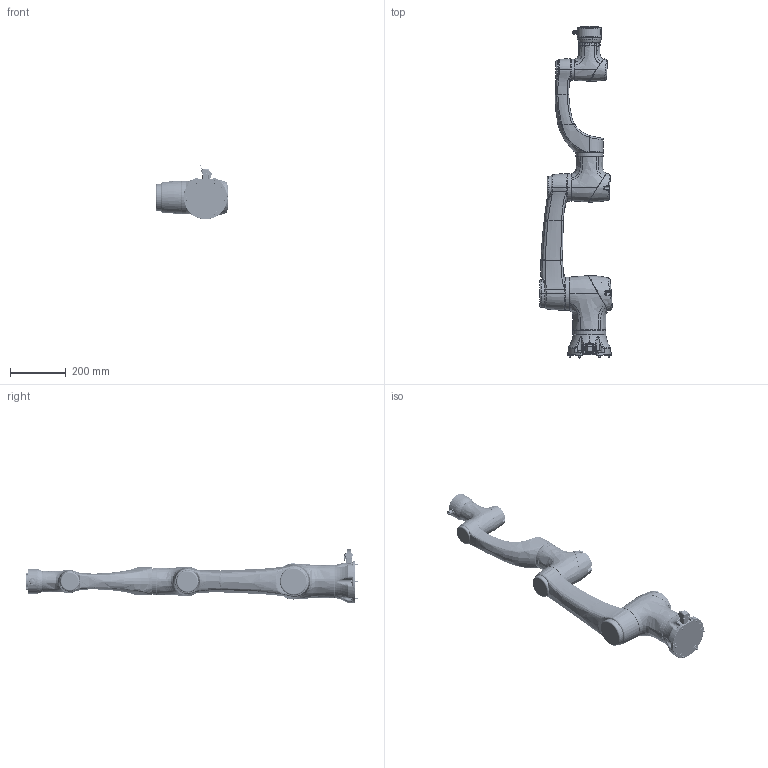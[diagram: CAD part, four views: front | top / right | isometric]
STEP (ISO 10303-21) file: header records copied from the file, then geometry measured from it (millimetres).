
FILE_DESCRIPTION (( 'STEP AP214' ), '1' );
FILE_NAME ('E05-IP66、压铸、总线末端机械手模型_20220707.STEP', '2022-07-29T03:01:38', ( '' ), ( '' ), 'SwSTEP 2.0', 'SolidWorks 2020', '' );
FILE_SCHEMA (( 'AUTOMOTIVE_DESIGN' ));
Length unit declared in the file: millimetre
Products named in the file (71): Part5^12B2(2)_12B2-带蓝灯-IP67防水-自复红波按钮2; 5Kg奻旋耀倰_20220705; Part28.1.1^12B2(2); Symmetry of Part5.1^12B2(2); 5kg奻旋耜裔耀倰_20220706; Part28.1.1^12B2(2)_12B2-带蓝灯-IP67防水-自复红波按钮2; 5kg狟旋奻耜裔耀倰_20220706; Part5^12B2(2); Part7.1^12B2(2); Part22^12B2(2); Elfin_菁釱脣芛_IP66_20190806_1.1; Part7.1^12B2(2)_12B2-带蓝灯-IP67防水-自复红波按钮2; 25粣耀郪耀倰_20220706; Elfin_底座组件_插头卡环_IP66_20190806_1.1; Part13.1.2^12B2(2); 瑤脣蹟譫; E05奻旋耀倰_20220705; Part16^12B2(2); 1419713瑤脣裔; Part5.1^12B2(2)_12B2-带蓝灯-IP67防水-自复红波按钮2; Part5.1^12B2(2); Elfin_菁釱郪璃_脣芛釱_IP66_20190806_1.1; Part30^12B2(2); 25模组后端盖模型_20220706_增加锥形孔; M3x28_CB3-16; 5kg菁釱耀倰_20220706; Part1^12B2(2); 14粣耀郪妗昜耀倰; Part13.1^12B2(2)_12B2-带蓝灯-IP67防水-自复红波按钮2; Symmetry of Part5.1^12B2(2)_12B2-带蓝灯-IP67防水-自复红波按钮2; M3x10_20190806_1.1_CB3-14; Symmetry of Part5^12B2(2)_12B2-带蓝灯-IP67防水-自复红波按钮2; 20耀郪妗昜耀倰_20220705; 20模组后端盖模型_20220705_原始; φ78X1 O型圈; Part16^12B2(2)_12B2-带蓝灯-IP67防水-自复红波按钮2; M12金属按钮开关螺母; Part6^12B2(2); 25axial_module_耀倰_20220705; Part22^12B2(2)_12B2-带蓝灯-IP67防水-自复红波按钮2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
Assembly tree (85 placements, depth 5):
  E05-IP66、压铸、总线末端机械手模型_20220707
    E05_菁釱郪璃耀倰_20220706
      Elfin_菁釱脣芛_IP66_20190806_1.1
        Elfin_菁釱郪璃_脣芛釱_IP66_20190806_1.1
        Elfin_菁釱郪璃_脣芛裔_IP66_20190806_1.1
        Elfin_底座组件_插头卡环_IP66_20190806_1.1
      5kg菁釱耀倰_20220706
    25axial_module_耀倰_20220705
      M3x14_IP66_20190806_2.0_CB3-16  x4
      25粣耀郪耀倰_20220706
      25模组后端盖模型_20220706_增加锥形孔
    E05_下臂组件_实物模型_20220706
      E05狟旋耀倰_20220706
      5kg狟旋狟耜裔耀倰_20220706
      5kg狟旋奻耜裔耀倰_20220706
    20axial_module_耀倰_20220705
      M3x20_20190806_1.1_CB3-14  x2
      M3x10_20190806_1.1_CB3-14  x2
      20耀郪妗昜耀倰_20220705
      20模组后端盖模型_20220705_原始
    5Kg奻旋耀倰_20220705
      E05奻旋耀倰_20220705
      5kg奻旋耜裔耀倰_20220706
    14axial_module_ 耀倰_20220706
      M3x28_CB3-16  x2
      14粣耀郪妗昜耀倰
      14粣耀郪綴裔耀倰
    14粣藺傷耀倰_IP66
      5-10kg藺傷俋褲耀倰_IP66
      1419713
      12B2-带蓝灯-IP67防水-自复红波按钮
        12B2(2)
          Part7^12B2(2)
          Part5^12B2(2)
          Part5.1^12B2(2)
          Symmetry of Part5^12B2(2)
          Symmetry of Part5.1^12B2(2)
          Part13.1.2^12B2(2)
          Part30^12B2(2)
          Part13.1^12B2(2)
          Part6^12B2(2)
          Part28.1.1^12B2(2)
          Part1^12B2(2)
          Part7.1^12B2(2)
          Part16^12B2(2)
          Part22^12B2(2)
          Part28.1.1.1^12B2(2)
          M12金属按钮开关螺母
      12B2(2)^12B2-带蓝灯-IP67防水-自复红波按钮2
        Part7^12B2(2)_12B2-带蓝灯-IP67防水-自复红波按钮2
        Part5^12B2(2)_12B2-带蓝灯-IP67防水-自复红波按钮2
        Part5.1^12B2(2)_12B2-带蓝灯-IP67防水-自复红波按钮2
        Symmetry of Part5^12B2(2)_12B2-带蓝灯-IP67防水-自复红波按钮2
        Symmetry of Part5.1^12B2(2)_12B2-带蓝灯-IP67防水-自复红波按钮2
        Part13.1.2^12B2(2)_12B2-带蓝灯-IP67防水-自复红波按钮2
        Part30^12B2(2)_12B2-带蓝灯-IP67防水-自复红波按钮2
        Part13.1^12B2(2)_12B2-带蓝灯-IP67防水-自复红波按钮2
        Part6
        Part28.1.1^12B2(2)_12B2-带蓝灯-IP67防水-自复红波按钮2
        Part1^12B2(2)_12B2-带蓝灯-IP67防水-自复红波按钮2
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Bounding box: 258.94 x 1186.3 x 194.91 mm (x, y, z)
Volume: 11882522.7 mm3; surface area: 1020447.1 mm2
Topology: 78 solids, 83 shells, 6132 faces, 15605 edges, 9695 vertices
Faces by surface type: plane 2454, bspline 1490, cylinder 1136, cone 634, torus 403, sphere 15
Entity records: 410524 total; most frequent: CARTESIAN_POINT 274699, ORIENTED_EDGE 29390, DIRECTION 22898, EDGE_CURVE 14695, VERTEX_POINT 9235, AXIS2_PLACEMENT_3D 8172, VECTOR 6554, LINE 6554
